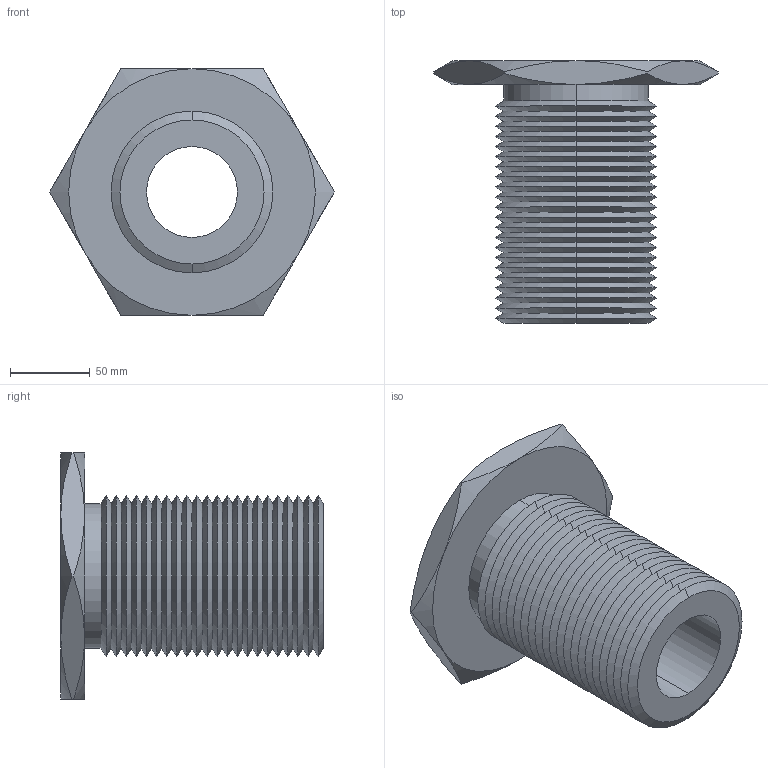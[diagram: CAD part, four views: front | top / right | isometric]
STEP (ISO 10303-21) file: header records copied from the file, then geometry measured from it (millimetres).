
FILE_DESCRIPTION (( 'STEP AP203' ), '1' );
FILE_NAME ('63302.W5400_2,25 UNC-4,5.step', '2013-12-08T12:03:56', ( 'User' ), ( '' ), 'SwSTEP 2.0', 'SolidWorks 2009', '' );
FILE_SCHEMA (( 'CONFIG_CONTROL_DESIGN' ));
Length unit declared in the file: millimetre
Products named in the file (1): 63302.W5400_2,25 UNC-4,5
Bounding box: 178.98 x 165 x 155 mm (x, y, z)
Volume: 958517.2 mm3; surface area: 158943.3 mm2
Topology: 1 solids, 1 shells, 115 faces, 234 edges, 122 vertices
Faces by surface type: cone 102, plane 9, cylinder 4
Entity records: 3179 total; most frequent: CARTESIAN_POINT 696, DIRECTION 552, ORIENTED_EDGE 468, EDGE_CURVE 234, AXIS2_PLACEMENT_3D 226, VERTEX_POINT 122, EDGE_LOOP 118, ADVANCED_FACE 115
